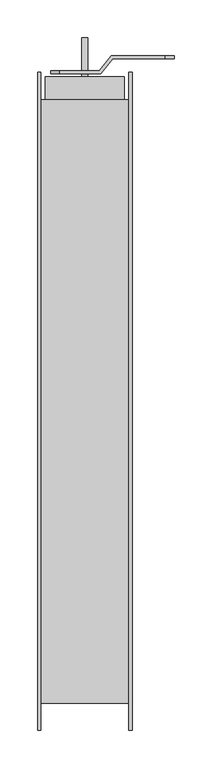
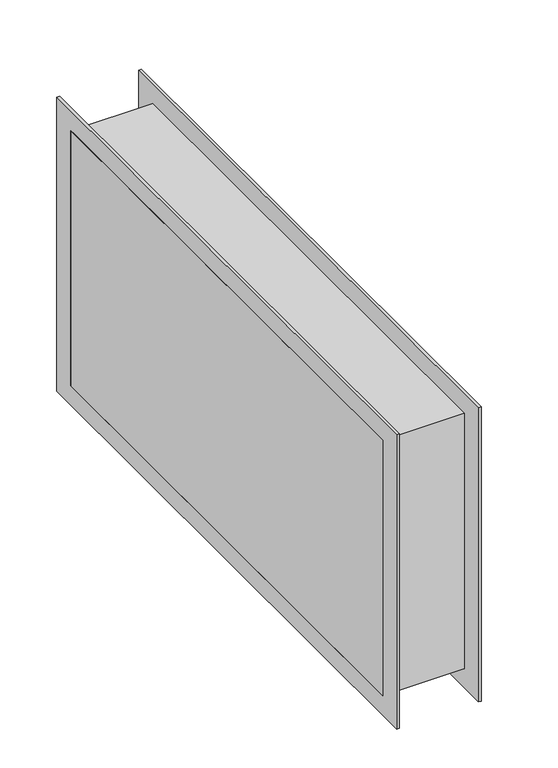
"""IFC4 building model written with IfcOpenShell, lengths in millimetres: damper geometry, ADSK_Арктос_Дроссель-клапан прямоугольный АВК : АВК 800х400."""

import ifcopenshell
import ifcopenshell.guid

model = None  # the IFC model being written
_history = None  # IfcOwnerHistory: only IFC2X3 demands one
_inside = {}  # id of a spatial element -> (the spatial element, [elements in it])
_under = {}  # id of a project, library or spatial element -> (it, [spatial elements below it])
_declared = {}  # id of a project -> (the project, [libraries it declares])
_typed = {}  # id of a type object -> (the type object, [elements of that type])
_made_of = {}  # id of a material, layer set ... -> (it, [elements and type objects made of it])


def new_model(schema):
    """Start an empty IFC model of exactly this schema.

    Asked for "IFC4X3", IfcOpenShell would pick the latest addendum, in which some entities
    have other attributes; the version numbers below select the first issue.
    IFC2X3 requires an IfcOwnerHistory on every rooted entity: one is made here for all.
    """
    global model, _history
    if schema == "IFC4X3":
        model = ifcopenshell.file(schema_version=(4, 3, 0, 0))
    else:
        model = ifcopenshell.file(schema=schema)
    _inside.clear()
    _under.clear()
    _declared.clear()
    _typed.clear()
    _made_of.clear()
    _history = None
    if model.schema == "IFC2X3":
        org = make("IfcOrganization", Name="unknown")
        user = make(
            "IfcPersonAndOrganization",
            ThePerson=make("IfcPerson", FamilyName="unknown"),
            TheOrganization=org,
        )
        app = make(
            "IfcApplication",
            ApplicationDeveloper=org,
            Version="unknown",
            ApplicationFullName="unknown",
            ApplicationIdentifier="unknown",
        )
        _history = make(
            "IfcOwnerHistory",
            OwningUser=user,
            OwningApplication=app,
            ChangeAction="ADDED",
            CreationDate=0,
        )
    return model


def make(cls, **values):
    """One entity of the class cls with the attributes given. An attribute that is None is left unset."""
    return model.create_entity(
        cls, **{name: value for name, value in values.items() if value is not None}
    )


def rooted(cls, **values):
    """An entity with a GlobalId (a new one), such as an element, a storey or a relation."""
    return make(cls, GlobalId=ifcopenshell.guid.new(), OwnerHistory=_history, **values)


def si_unit(unit_type, name, prefix=None):
    """IfcSIUnit, for example si_unit("LENGTHUNIT", "METRE", prefix="MILLI")."""
    return make("IfcSIUnit", UnitType=unit_type, Prefix=prefix, Name=name)


def assignment(units):
    """IfcUnitAssignment: the units of a project."""
    return None if units is None else make("IfcUnitAssignment", Units=units)


def point(xyz):
    """IfcCartesianPoint."""
    return None if xyz is None else make("IfcCartesianPoint", Coordinates=xyz)


def direction(xyz):
    """IfcDirection."""
    return None if xyz is None else make("IfcDirection", DirectionRatios=xyz)


def frame(location, z_axis=None, x_axis=None):
    """IfcAxis2Placement3D, a coordinate frame: its origin and axes. An axis left out is left unset."""
    return make(
        "IfcAxis2Placement3D",
        Location=point(location),
        Axis=direction(z_axis),
        RefDirection=direction(x_axis),
    )


def origin():
    """The frame at (0, 0, 0) with its axes left unset."""
    return frame((0.0, 0.0, 0.0))


def place(relative_to, where):
    """IfcLocalPlacement: puts the frame where relative to a parent placement (None: the world)."""
    return make(
        "IfcLocalPlacement", PlacementRelTo=relative_to, RelativePlacement=where
    )


def context(
    kind, dimensions, precision=None, world=None, true_north=None, identifier=None
):
    """IfcGeometricRepresentationContext, for example the 3D "Model" context."""
    return make(
        "IfcGeometricRepresentationContext",
        ContextIdentifier=identifier,
        ContextType=kind,
        CoordinateSpaceDimension=dimensions,
        Precision=precision,
        WorldCoordinateSystem=world,
        TrueNorth=true_north,
    )


def project(units=None, contexts=None):
    """IfcProject with its units and contexts."""
    return rooted(
        "IfcProject",
        Name="project",
        RepresentationContexts=contexts,
        UnitsInContext=assignment(units),
    )


def spatial(cls, under=None, at=None, **own):
    """A site, building, storey or space (cls), placed at a placement, below another one or the project."""
    s = rooted(cls, ObjectPlacement=at, **own)
    if under is not None:
        _under.setdefault(under.id(), (under, []))[1].append(s)
    return s


def polyline(points):
    """IfcPolyline through the points."""
    return make("IfcPolyline", Points=[point(p) for p in points])


def circle_curve(where, radius):
    """IfcCircle in the frame where."""
    return make("IfcCircle", Position=where, Radius=radius)


def outline(outer, holes=None, kind="AREA"):
    """IfcArbitraryClosedProfileDef: a profile drawn as a closed curve; with holes, ...WithVoids."""
    if holes is None:
        return make("IfcArbitraryClosedProfileDef", ProfileType=kind, OuterCurve=outer)
    return make(
        "IfcArbitraryProfileDefWithVoids",
        ProfileType=kind,
        OuterCurve=outer,
        InnerCurves=holes,
    )


def extrude(swept, where, along, depth):
    """IfcExtrudedAreaSolid: the profile swept, set in the frame where, extruded along a direction by depth."""
    return make(
        "IfcExtrudedAreaSolid",
        SweptArea=swept,
        Position=where,
        ExtrudedDirection=direction(along),
        Depth=depth,
    )


def shape(context_of_items, identifier, shape_type, items):
    """IfcShapeRepresentation: the items that make up one representation, for example the "Body"."""
    return make(
        "IfcShapeRepresentation",
        ContextOfItems=context_of_items,
        RepresentationIdentifier=identifier,
        RepresentationType=shape_type,
        Items=items,
    )


def source(mapping_origin, context_of_items, identifier, shape_type, items):
    """IfcRepresentationMap: a shape defined once, which mapped items show again and again."""
    return make(
        "IfcRepresentationMap",
        MappingOrigin=mapping_origin,
        MappedRepresentation=shape(context_of_items, identifier, shape_type, items),
    )


def transform(
    local_origin,
    x_axis=None,
    y_axis=None,
    z_axis=None,
    scale=None,
    scale2=None,
    scale3=None,
    uniform=True,
):
    """IfcCartesianTransformationOperator3D, or its non-uniform kind. x_axis, y_axis, z_axis: its Axis1, 2, 3."""
    if uniform:
        return make(
            "IfcCartesianTransformationOperator3D",
            Axis1=direction(x_axis),
            Axis2=direction(y_axis),
            LocalOrigin=point(local_origin),
            Scale=scale,
            Axis3=direction(z_axis),
        )
    return make(
        "IfcCartesianTransformationOperator3DnonUniform",
        Axis1=direction(x_axis),
        Axis2=direction(y_axis),
        LocalOrigin=point(local_origin),
        Scale=scale,
        Axis3=direction(z_axis),
        Scale2=scale2,
        Scale3=scale3,
    )


def mapped(mapping_source, mapping_target):
    """IfcMappedItem: shows the shape of a source again, moved by a transform."""
    return make(
        "IfcMappedItem", MappingSource=mapping_source, MappingTarget=mapping_target
    )


def made_of(thing, what):
    """Note that an element or type object is made of a material, layer set ...; save() writes the relation."""
    if what is not None:
        _made_of.setdefault(what.id(), (what, []))[1].append(thing)
    return thing


def element(
    cls,
    number,
    at=None,
    inside=None,
    cuts=None,
    type_object=None,
    material=None,
    context=None,
    identifier="Body",
    shape_type=None,
    held_by="IfcProductDefinitionShape",
    body=None,
    shapes=None,
    **own,
):
    """One element of the class cls, such as IfcWall. Its Tag is "e" and its number.

    at: its placement. inside: the storey or other place that contains it. cuts: it is an
    opening in that element (IfcRelVoidsElement). A single representation is given by context,
    identifier, shape_type and body (its items); several are given by shapes. held_by: the class
    of the entity that holds the representations. save() writes the other relations.
    """
    e = rooted(cls, Tag="e%d" % number, ObjectPlacement=at, **own)
    if body is not None:
        shapes = [shape(context, identifier, shape_type, body)]
    if shapes is not None:
        e.Representation = make(held_by, Representations=shapes)
    if inside is not None:
        _inside.setdefault(inside.id(), (inside, []))[1].append(e)
    if cuts is not None:
        rooted(
            "IfcRelVoidsElement", RelatingBuildingElement=cuts, RelatedOpeningElement=e
        )
    if type_object is not None:
        _typed.setdefault(type_object.id(), (type_object, []))[1].append(e)
    return made_of(e, material)


def aggregate(whole, parts):
    """IfcRelAggregates: a whole, such as a stair, and the parts it consists of."""
    return rooted("IfcRelAggregates", RelatingObject=whole, RelatedObjects=parts)


def save(model, path):
    """Write the relations noted so far, then the file.

    IfcRelAggregates (storeys below a building ...), IfcRelContainedInSpatialStructure (elements
    in a storey), IfcRelDefinesByType, IfcRelAssociatesMaterial and IfcRelDeclares: one each for
    every whole, place, type object, material and project.
    """
    for whole, parts in _under.values():
        aggregate(whole, parts)
    for where, things in _inside.values():
        rooted(
            "IfcRelContainedInSpatialStructure",
            RelatedElements=things,
            RelatingStructure=where,
        )
    for kind, things in _typed.values():
        rooted("IfcRelDefinesByType", RelatedObjects=things, RelatingType=kind)
    for what, things in _made_of.values():
        rooted("IfcRelAssociatesMaterial", RelatedObjects=things, RelatingMaterial=what)
    for by, libraries in _declared.values():
        rooted("IfcRelDeclares", RelatingContext=by, RelatedDefinitions=libraries)
    model.write(path)


def plane_surface(at):
    """IfcPlane: the flat surface through the origin of the frame at, square to its z axis."""
    return make("IfcPlane", Position=at)


def cylinder_surface(at, radius):
    """IfcCylindricalSurface: all points at the distance radius from the z axis of the frame at."""
    return make("IfcCylindricalSurface", Position=at, Radius=radius)


def advanced_brep(points, edges, surfaces, faces):
    """IfcAdvancedBrep: a solid bounded by faces that lie on surfaces and meet in shared edges.

    An edge is (start, end): straight between two places in points (the first is 0);
    or (start, end, curve); or (start, end, curve, False) where it runs against its curve.
    A face is (place in surfaces, loops), or (place, loops, False) where it looks against
    its surface's normal. A loop lists edges by number (the first is 1), with a minus sign
    where the edge is run from its end to its start. The first loop is the outer one.
    """
    corners = [point(p) for p in points]
    vertices = [make("IfcVertexPoint", VertexGeometry=c) for c in corners]
    made = []
    for start, end, *more in edges:
        made.append(
            make(
                "IfcEdgeCurve",
                EdgeStart=vertices[start],
                EdgeEnd=vertices[end],
                EdgeGeometry=more[0] if more else make("IfcPolyline", Points=[corners[start], corners[end]]),
                SameSense=more[1] if len(more) > 1 else True,
            )
        )
    hull = []
    for where, loops, *sense in faces:
        bounds = []
        for j, loop in enumerate(loops):
            ring = [make("IfcOrientedEdge", EdgeElement=made[abs(k) - 1], Orientation=k > 0) for k in loop]
            bounds.append(
                make(
                    "IfcFaceOuterBound" if j == 0 else "IfcFaceBound",
                    Bound=make("IfcEdgeLoop", EdgeList=ring),
                    Orientation=True,
                )
            )
        hull.append(make("IfcAdvancedFace", Bounds=bounds, FaceSurface=surfaces[where], SameSense=sense[0] if sense else True))
    return make("IfcAdvancedBrep", Outer=make("IfcClosedShell", CfsFaces=hull))


def damper_df7a52fa(model_context):
    return source(origin(), model_context, "Body", "SolidModel", [
        advanced_brep(
        [(106.0, 454.0, -125.0), (36.9754652, 454.0, -125.0), (36.9754652, 454.0, -150.0), (106.0, 454.0, -150.0), (21.3497526, 434.0, -150.0), (-33.0, 434.0, -150.0), (-33.0, 438.0, -150.0), (19.3988223, 438.0, -150.0), (35.0245348, 458.0, -150.0), (106.0, 458.0, -150.0), (35.0245348, 458.0, -125.0), (106.0, 458.0, -125.0), (19.3988223, 438.0, -125.0), (-33.0, 438.0, -125.0), (-33.0, 434.0, -125.0), (21.3497526, 434.0, -125.0)],
        [
            (0, 1),
            (1, 2),
            (2, 3),
            (3, 0, circle_curve(frame((106.0, 454.0, -137.5), z_axis=(0.0, -1.0, 0.0), x_axis=(0.0, 0.0, -1.0)), 12.5)),
            (2, 4),
            (4, 5),
            (5, 6),
            (6, 7),
            (7, 8),
            (8, 9),
            (9, 3),
            (8, 10),
            (10, 11),
            (11, 9, circle_curve(frame((106.0, 458.0, -137.5), z_axis=(0.0, 1.0, 0.0), x_axis=(0.0, 0.0, -1.0)), 12.5)),
            (0, 11),
            (10, 12),
            (12, 13),
            (13, 14),
            (14, 15),
            (15, 1),
            (15, 4),
            (7, 12),
            (14, 5, circle_curve(frame((-33.0, 434.0, -137.5), z_axis=(0.0, -1.0, 0.0), x_axis=(0.0, 0.0, -1.0)), 12.5)),
            (6, 13, circle_curve(frame((-33.0, 438.0, -137.5), z_axis=(0.0, 1.0, 0.0), x_axis=(0.0, 0.0, -1.0)), 12.5)),
        ],
        [
            plane_surface(frame((106.0, 454.0, -125.0), z_axis=(0.0, -1.0, 0.0), x_axis=(-1.0, 0.0, 0.0))),
            plane_surface(frame((106.0, 454.0, -150.0), z_axis=(0.0, 0.0, -1.0), x_axis=(-1.0, 0.0, 0.0))),
            plane_surface(frame((106.0, 458.0, -150.0), z_axis=(0.0, 1.0, 0.0), x_axis=(-1.0, 0.0, 0.0))),
            plane_surface(frame((106.0, 458.0, -125.0), z_axis=(0.0, 0.0, 1.0), x_axis=(-1.0, 0.0, 0.0))),
            plane_surface(frame((36.9754652, 454.0, -125.0), z_axis=(0.7880107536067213, -0.6156614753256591, 0.0), x_axis=(-0.6156614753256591, -0.7880107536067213, 0.0))),
            plane_surface(frame((35.0245348, 458.0, -150.0), z_axis=(-0.7880107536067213, 0.6156614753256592, 0.0), x_axis=(-0.6156614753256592, -0.7880107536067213, 0.0))),
            plane_surface(frame((21.3497526, 434.0, -125.0), z_axis=(0.0, -1.0, 0.0), x_axis=(-1.0, 0.0, 0.0))),
            plane_surface(frame((19.3988223, 438.0, -150.0), z_axis=(0.0, 1.0, 0.0), x_axis=(-1.0, 0.0, 0.0))),
            cylinder_surface(frame((-33.0, 416.549934, -137.5), z_axis=(0.0, 1.0, 0.0), x_axis=(0.0, 0.0, -1.0)), 12.5),
            cylinder_surface(frame((106.0, 465.9765102, -137.5), z_axis=(0.0, 1.0, 0.0), x_axis=(0.0, 0.0, -1.0)), 12.5),
        ],
        [
            (0, [[1, 2, 3, 4]]),
            (1, [[-3, 5, 6, 7, 8, 9, 10, 11]]),
            (2, [[-10, 12, 13, 14]]),
            (3, [[-1, 15, -13, 16, 17, 18, 19, 20]]),
            (4, [[-2, -20, 21, -5]]),
            (5, [[-9, 22, -16, -12]]),
            (6, [[-6, -21, -19, 23]]),
            (7, [[-8, 24, -17, -22]]),
            (8, [[-23, -18, -24, -7]]),
            (9, [[-4, -11, -14, -15]]),
        ],
    ),
        extrude(outline(polyline([(-4.0, 482.0), (3.9317836, 482.0), (3.9317836, 422.0), (-4.0, 422.0), (-4.0, 482.0)])), frame((0.0, 0.0, -141.5), z_axis=(0.0, 0.0, 1.0), x_axis=(1.0, 0.0, 0.0)), (0.0, 0.0, 1.0), 8.0),
        extrude(outline(polyline([(62.5, 400.0), (62.5, -400.0), (-62.5, -400.0), (-62.5, 400.0), (62.5, 400.0)])), frame((0.0, 0.0, -200.0), z_axis=(0.0, 0.0, 1.0), x_axis=(1.0, 0.0, 0.0)), (0.0, 0.0, 1.0), 400.0),
        extrude(outline(polyline([(436.0, 230.5), (436.0, -230.5), (-436.0, -230.5), (-436.0, 230.5), (436.0, 230.5)]), holes=[polyline([(400.0, 200.0), (-400.0, 200.0), (-400.0, -200.0), (400.0, -200.0), (400.0, 200.0)])]), frame((58.5, 0.0, 0.0), z_axis=(1.0, 0.0, 0.0), x_axis=(0.0, 1.0, 0.0)), (0.0, 0.0, 1.0), 4.0),
        extrude(outline(polyline([(-436.0, 230.5), (436.0, 230.5), (436.0, -230.5), (-436.0, -230.5), (-436.0, 230.5)]), holes=[polyline([(-400.0, 200.0), (-400.0, -200.0), (400.0, -200.0), (400.0, 200.0), (-400.0, 200.0)])]), frame((-62.5, 0.0, 0.0), z_axis=(1.0, 0.0, 0.0), x_axis=(0.0, 1.0, 0.0)), (0.0, 0.0, 1.0), 4.0),
        extrude(outline(polyline([(-52.5, 430.0), (52.5, 430.0), (52.5, 390.0), (-52.5, 390.0), (-52.5, 430.0)])), frame((0.0, 0.0, -175.0), z_axis=(0.0, 0.0, 1.0), x_axis=(1.0, 0.0, 0.0)), (0.0, 0.0, 1.0), 250.0),
    ])


if __name__ == "__main__":
    model = new_model("IFC4")
    model_context = context("Model", 3, world=origin())
    ifc_project = project(units=[si_unit("LENGTHUNIT", "METRE", prefix="MILLI")], contexts=[model_context])
    site = spatial("IfcSite", under=ifc_project)
    building = spatial("IfcBuilding", under=site)
    placement = place(None, origin())
    damper_shape = damper_df7a52fa(model_context)
    element("IfcDamper", 1, ObjectType="ADSK_Арктос_Дроссель-клапан прямоугольный АВК : АВК 800х400", at=placement, inside=building, context=model_context, shape_type="MappedRepresentation", body=[
        mapped(damper_shape, transform((0.0, 0.0, 0.0), x_axis=(1.0, 0.0, 0.0), y_axis=(0.0, 1.0, 0.0), z_axis=(0.0, 0.0, 1.0))),
    ])
    save(model, "model.ifc")
